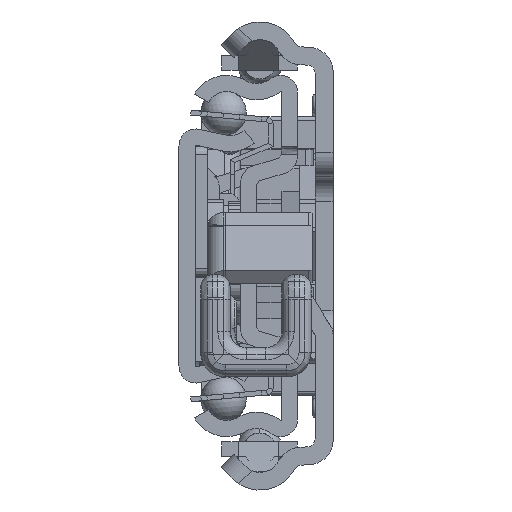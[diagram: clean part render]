
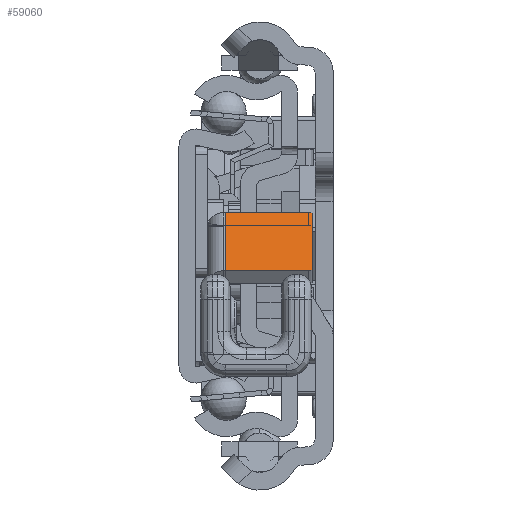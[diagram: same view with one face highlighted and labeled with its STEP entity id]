
A CAD part, left-side view. The second image highlights one B-rep face of the part: STEP entity #59060.
In plain terms, the highlighted planar face has unit normal (-0.597, 0, 0.802) as drawn and (-0.597, -0.802, 0) by its records, which use the part's own axes.
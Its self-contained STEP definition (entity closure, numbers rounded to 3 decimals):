
#58448=DIRECTION('',(0.802,-0.597,0.));
#58449=VECTOR('',#58448,12.);
#58450=CARTESIAN_POINT('',(31.957,-10.314,-0.2));
#58451=LINE('',#58450,#58449);
#58476=DIRECTION('',(0.,0.,1.));
#58477=VECTOR('',#58476,10.3);
#58478=CARTESIAN_POINT('',(41.586,-17.476,-10.5));
#58479=LINE('',#58478,#58477);
#58480=CARTESIAN_POINT('',(41.184,-17.178,-10.5));
#58481=DIRECTION('',(-0.597,-0.802,0.));
#58482=DIRECTION('',(0.,0.,-1.));
#58483=AXIS2_PLACEMENT_3D('',#58480,#58481,#58482);
#58485=DIRECTION('',(0.802,-0.597,0.));
#58486=VECTOR('',#58485,11.);
#58487=CARTESIAN_POINT('',(32.358,-10.613,-11.));
#58488=LINE('',#58487,#58486);
#58489=CARTESIAN_POINT('',(32.358,-10.613,-10.5));
#58490=DIRECTION('',(-0.597,-0.802,0.));
#58491=DIRECTION('',(-0.802,0.597,0.));
#58492=AXIS2_PLACEMENT_3D('',#58489,#58490,#58491);
#58494=DIRECTION('',(0.,0.,-1.));
#58495=VECTOR('',#58494,10.3);
#58496=CARTESIAN_POINT('',(31.957,-10.314,-0.2));
#58497=LINE('',#58496,#58495);
#58714=CARTESIAN_POINT('',(31.957,-10.314,-0.2));
#58715=CARTESIAN_POINT('',(41.586,-17.476,-0.2));
#58716=VERTEX_POINT('',#58714);
#58717=VERTEX_POINT('',#58715);
#58746=CARTESIAN_POINT('',(41.586,-17.476,-10.5));
#58747=VERTEX_POINT('',#58746);
#58748=CARTESIAN_POINT('',(32.358,-10.613,-11.));
#58749=CARTESIAN_POINT('',(41.184,-17.178,-11.));
#58750=VERTEX_POINT('',#58748);
#58751=VERTEX_POINT('',#58749);
#58752=CARTESIAN_POINT('',(31.957,-10.314,-10.5));
#58753=VERTEX_POINT('',#58752);
#59042=CARTESIAN_POINT('',(34.726,-12.374,2.));
#59043=DIRECTION('',(0.597,0.802,0.));
#59044=DIRECTION('',(0.802,-0.597,0.));
#59045=AXIS2_PLACEMENT_3D('',#59042,#59043,#59044);
#59046=PLANE('',#59045);
#59048=ORIENTED_EDGE('',*,*,#59047,.F.);
#59050=ORIENTED_EDGE('',*,*,#59049,.F.);
#59052=ORIENTED_EDGE('',*,*,#59051,.F.);
#59054=ORIENTED_EDGE('',*,*,#59053,.F.);
#59056=ORIENTED_EDGE('',*,*,#59055,.F.);
#59057=ORIENTED_EDGE('',*,*,#59029,.T.);
#59058=EDGE_LOOP('',(#59048,#59050,#59052,#59054,#59056,#59057));
#59059=FACE_OUTER_BOUND('',#59058,.F.);
#58484=CIRCLE('',#58483,0.5);
#58493=CIRCLE('',#58492,0.5);
#59029=EDGE_CURVE('',#58716,#58717,#58451,.T.);
#59047=EDGE_CURVE('',#58747,#58717,#58479,.T.);
#59049=EDGE_CURVE('',#58751,#58747,#58484,.T.);
#59051=EDGE_CURVE('',#58750,#58751,#58488,.T.);
#59053=EDGE_CURVE('',#58753,#58750,#58493,.T.);
#59055=EDGE_CURVE('',#58716,#58753,#58497,.T.);
#59060=ADVANCED_FACE('',(#59059),#59046,.F.);
